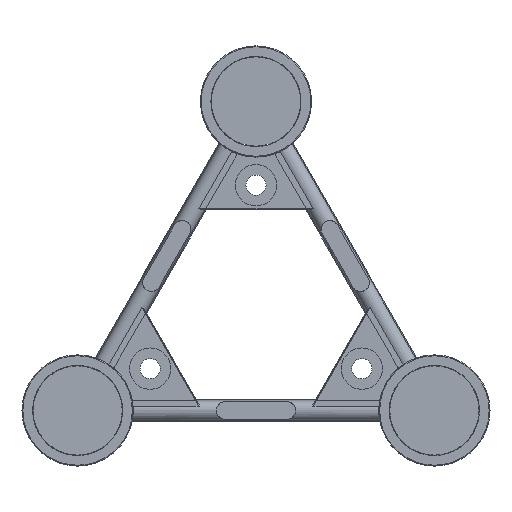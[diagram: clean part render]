
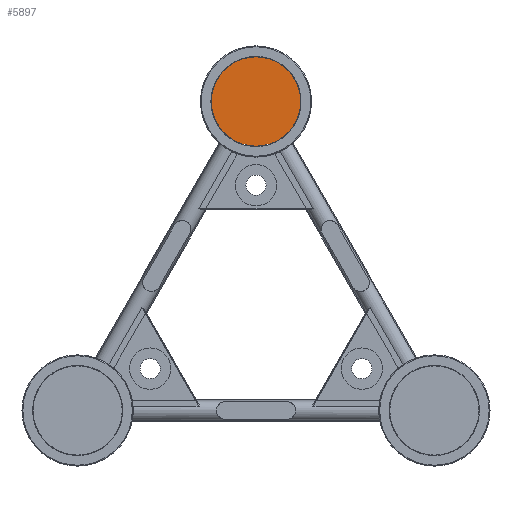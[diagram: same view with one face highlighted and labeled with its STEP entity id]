
A CAD part, left-side view. The second image highlights one B-rep face of the part: STEP entity #5897.
In plain terms, the highlighted planar face has unit normal (-1, 0, 0).
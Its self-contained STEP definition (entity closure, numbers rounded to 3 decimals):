
#637=CIRCLE('',#6553,25.4);
#1142=FACE_OUTER_BOUND('',#1664,.T.);
#1664=EDGE_LOOP('',(#4812));
#2740=VERTEX_POINT('',#11008);
#3424=EDGE_CURVE('',#2740,#2740,#637,.T.);
#4812=ORIENTED_EDGE('',*,*,#3424,.F.);
#5150=PLANE('',#6556);
#5897=ADVANCED_FACE('',(#1142),#5150,.T.);
#6553=AXIS2_PLACEMENT_3D('',#11009,#8131,#8132);
#6556=AXIS2_PLACEMENT_3D('',#11012,#8137,#8138);
#8131=DIRECTION('center_axis',(1.,0.,0.));
#8132=DIRECTION('ref_axis',(0.,-1.,0.));
#8137=DIRECTION('center_axis',(-1.,0.,0.));
#8138=DIRECTION('ref_axis',(0.,-1.,0.));
#11008=CARTESIAN_POINT('',(0.,126.9,175.803));
#11009=CARTESIAN_POINT('Origin',(0.,101.5,175.803));
#11012=CARTESIAN_POINT('Origin',(0.,101.5,175.803));
